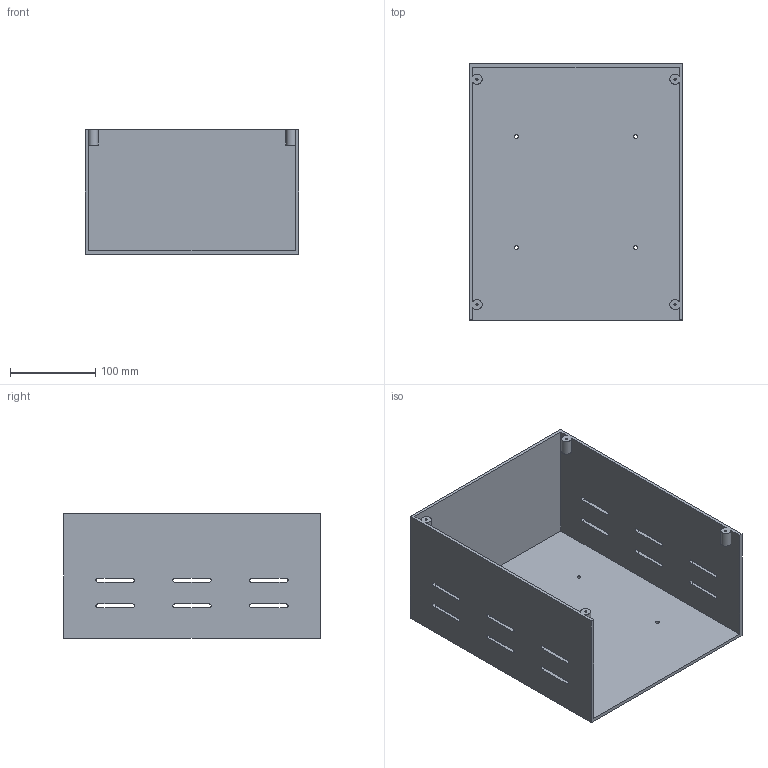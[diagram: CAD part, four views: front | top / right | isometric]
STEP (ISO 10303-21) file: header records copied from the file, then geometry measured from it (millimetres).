
FILE_DESCRIPTION(('Open CASCADE Model'),'2;1');
FILE_NAME('Open CASCADE Shape Model','2026-10-21T16:53:52',('Author'),( 'Open CASCADE'),'Open CASCADE STEP processor 7.9','Open CASCADE 7.9' ,'Unknown');
FILE_SCHEMA(('AUTOMOTIVE_DESIGN { 1 0 10303 214 1 1 1 1 }'));
Length unit declared in the file: millimetre
Products named in the file (1): Open CASCADE STEP translator 7.9 17
Bounding box: 250 x 300 x 146 mm (x, y, z)
Volume: 775994.9 mm3; surface area: 397676 mm2
Topology: 1 solids, 1 shells, 78 faces, 216 edges, 144 vertices
Faces by surface type: plane 42, cylinder 36
Full cylindrical faces by diameter (mm): 2.5 x4, 4.5 x4
Entity records: 5574 total; most frequent: CARTESIAN_POINT 1231, DIRECTION 818, LINE 504, VECTOR 504, ORIENTED_EDGE 432, PCURVE 432, DEFINITIONAL_REPRESENTATION 432, EDGE_CURVE 216
